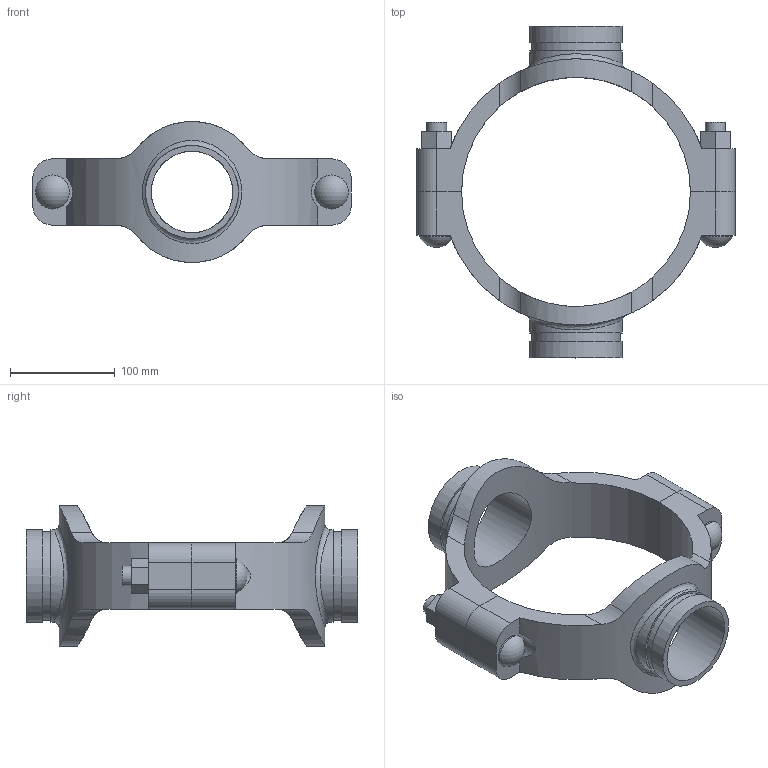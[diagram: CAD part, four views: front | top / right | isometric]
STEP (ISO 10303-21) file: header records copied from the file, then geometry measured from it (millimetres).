
FILE_DESCRIPTION(/* description */ ('VIC MECH-T BRANCH OUTLET CROSS STYLE 920N (GRVD)','CAx-IF Rec.Pracs.---Representation and Presentation of Product Manufacturing Information (PMI)---4.0---2014-10-13'),/* implementation_level */ '2;1');
FILE_NAME(/* name */ 'C:\Users\Vjadhav\AppData\Roaming\Autodesk\ApplicationPlugins\Back Up\Victaulic_IPS_Mechanical-Cross Outlet_Style 920N (OGS)\Victaulic_IPS_Mechanical-Cross Outlet_08.0x03.0x03.0 (200x80x80).stp',/* time_stamp */ '2020-08-06T19:45:59+05:00',/* author */ ('Vjadhav'),/* organization */ ('Victaulic'),/* preprocessor_version */ 'ST-DEVELOPER v17.2',/* originating_system */ 'Autodesk Inventor 2019',/* authorisation */ '');
FILE_SCHEMA (('AP242_MANAGED_MODEL_BASED_3D_ENGINEERING_MIM_LF { 1 0 10303 442 1 1 4 }'));
Length unit declared in the file: inch
Products named in the file (3): 920NG-08.0x03.0x03.0; 920G-08.0x03.0; 920G-08.0x03.0_1
Assembly tree (2 placements, depth 2):
  920NG-08.0x03.0x03.0
    920G-08.0x03.0
    920G-08.0x03.0_1
Bounding box: 304.8 x 317.5 x 134.87 mm (x, y, z)
Volume: 1245228.5 mm3; surface area: 228833.1 mm2
Topology: 2 solids, 2 shells, 108 faces, 274 edges, 186 vertices
Faces by surface type: plane 54, cylinder 50, sphere 2, bspline 2
Full cylindrical faces by diameter (mm): 19.05 x4, 32.537 x2, 77.787 x2, 84.938 x2, 88.9 x4
Entity records: 4406 total; most frequent: CARTESIAN_POINT 1525, DIRECTION 552, ORIENTED_EDGE 548, EDGE_CURVE 274, AXIS2_PLACEMENT_3D 201, VERTEX_POINT 186, LINE 150, VECTOR 150
